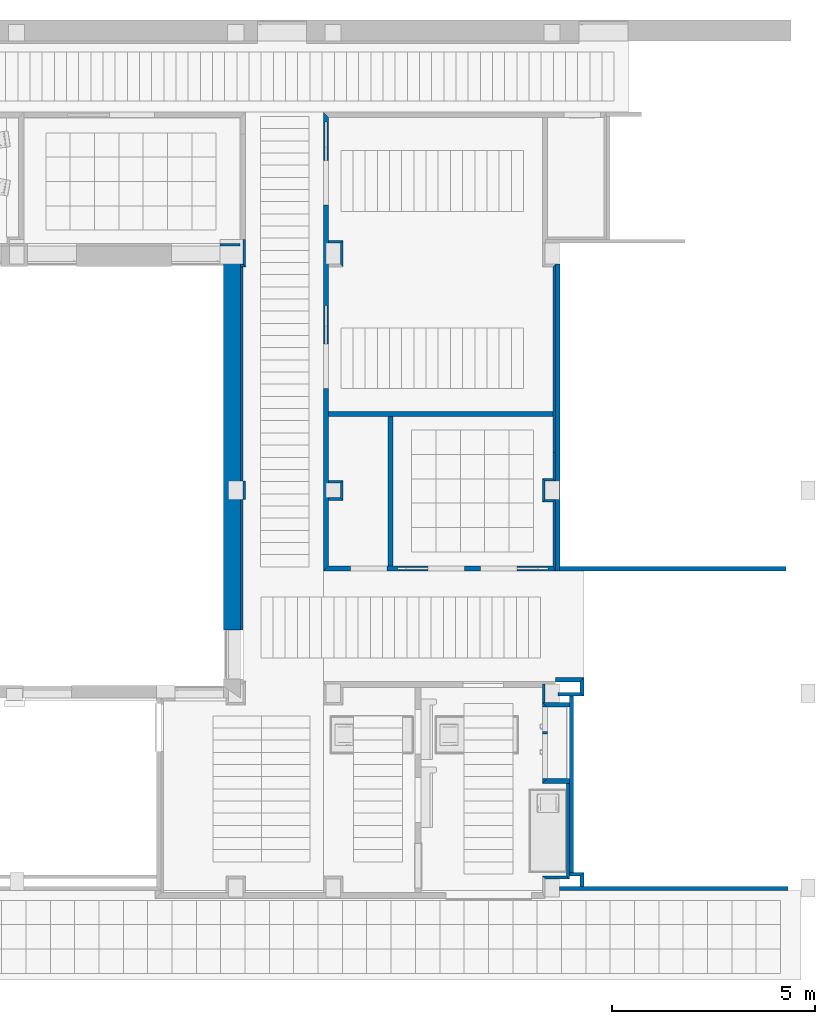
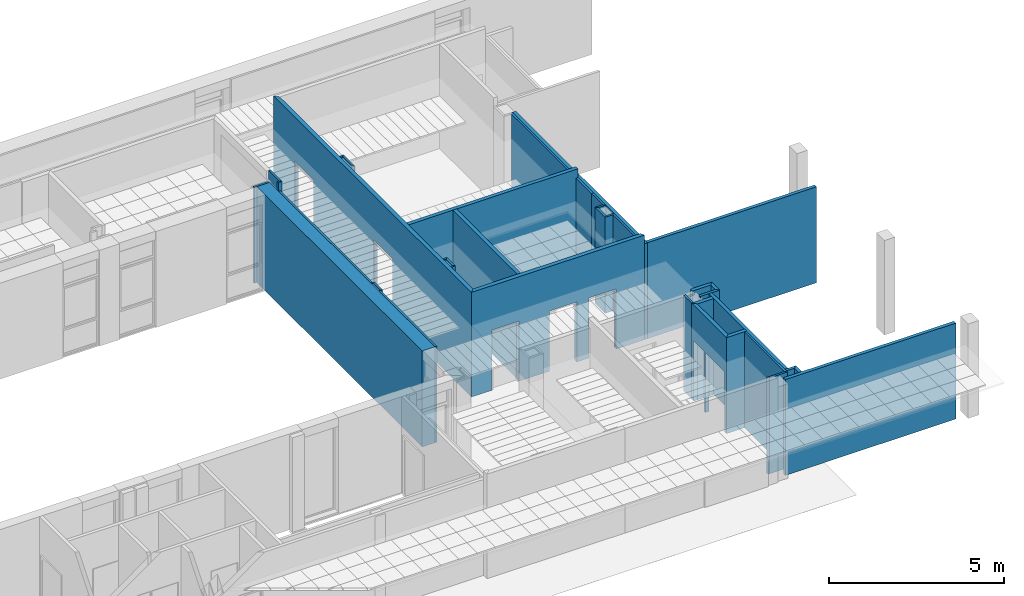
# One storey, part 42 of 60: 37 walls, 7 openings.
"""IFC2X3 building model written with IfcOpenShell, lengths in millimetres."""

from ifc_helpers import new_model, entity, si_unit, converted_unit, derived_unit, money_unit, direction, frame, origin_with_axes, origin_2d_with_axis, place, context, subcontext, project, spatial, polyline, rectangle, outline, extrude, material, layer, layer_set, layer_usage, type_object, element, save


model = new_model("IFC2X3")

# Units and contexts
model_context = context("Model", 3, precision=0.01, world=origin_with_axes(), true_north=direction((0.0, 1.0)))
body_context = subcontext(model_context, "Body", "Model", "MODEL_VIEW")
ifc_project = project(units=[si_unit("LENGTHUNIT", "METRE", prefix="MILLI"), si_unit("AREAUNIT", "SQUARE_METRE"), si_unit("VOLUMEUNIT", "CUBIC_METRE"), converted_unit("PLANEANGLEUNIT", "DEGREE", entity("IfcPlaneAngleMeasure", 0.0174532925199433), si_unit("PLANEANGLEUNIT", "RADIAN"), dimensions=[0, 0, 0, 0, 0, 0, 0]), money_unit("USD"), converted_unit("TIMEUNIT", "Year", entity("IfcTimeMeasure", 31557600.0), si_unit("TIMEUNIT", "SECOND"), dimensions=[0, 0, 1, 0, 0, 0, 0]), si_unit("MASSUNIT", "GRAM", prefix="KILO"), si_unit("THERMODYNAMICTEMPERATUREUNIT", "DEGREE_CELSIUS"), si_unit("LUMINOUSINTENSITYUNIT", "LUMEN"), si_unit("ENERGYUNIT", "JOULE", prefix="MEGA"), derived_unit("THERMALCONDUCTANCEUNIT", [(si_unit("POWERUNIT", "WATT"), 1), (si_unit("LENGTHUNIT", "METRE"), -1), (si_unit("THERMODYNAMICTEMPERATUREUNIT", "KELVIN"), -1)]), derived_unit("SPECIFICHEATCAPACITYUNIT", [(si_unit("ENERGYUNIT", "JOULE"), 1), (si_unit("MASSUNIT", "GRAM", prefix="KILO"), -1), (si_unit("THERMODYNAMICTEMPERATUREUNIT", "KELVIN"), -1)]), derived_unit("MASSDENSITYUNIT", [(si_unit("MASSUNIT", "GRAM", prefix="KILO"), 1), (si_unit("VOLUMEUNIT", "CUBIC_METRE"), -1)])], contexts=[model_context])

# Site, building, storey
site_placement = place(None, origin_with_axes())
site = spatial("IfcSite", under=ifc_project, at=site_placement, Name="Sitio", CompositionType="ELEMENT")
building_placement = place(site_placement, origin_with_axes())
building = spatial("IfcBuilding", under=site, at=building_placement, Name="Construcción", CompositionType="ELEMENT")
storey_placement = place(building_placement, frame((0.0, 0.0, 3650.0), z_axis=(0.0, 0.0, 1.0), x_axis=(1.0, 0.0, 0.0)))
storey = spatial("IfcBuildingStorey", under=building, at=storey_placement, Name="PLANTA 2ª", CompositionType="ELEMENT", Elevation=3650.0)

# Wall
ifc_material_1 = material(Name="ARQ_CE217_Gero")
ifc_layer_1 = layer(ifc_material_1, 150.0, ventilated="UNKNOWN")
ifc_material_2 = material(Name="ARQ_AI031_Aillament_Poliestireno expandido EPS")
ifc_layer_2 = layer(ifc_material_2, 180.0, ventilated="UNKNOWN")
ifc_material_3 = material(Name="ARQ_CE218_Ceramic")
ifc_layer_3 = layer(ifc_material_3, 80.0, ventilated="UNKNOWN")
ifc_material_4 = material(Name="ARQ_AM246_Arrebossat_De_Guix")
ifc_layer_4 = layer(ifc_material_4, 10.0, ventilated="UNKNOWN")
ifc_layer_set_1 = layer_set([ifc_layer_1, ifc_layer_2, ifc_layer_3, ifc_layer_4], Name="façana pati CR1")
ifc_layer_usage_1 = layer_usage(ifc_layer_set_1, "AXIS2", "POSITIVE", -420.0)
wall_type_1 = type_object("IfcWallType", Name="façana pati CR1 420", PredefinedType="NOTDEFINED")
wall_1_placement = place(storey_placement, frame((-1681.10900487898, -1193.975823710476, 0.0), z_axis=(0.0, 0.0, 1.0), x_axis=(0.0, -1.0, 0.0)))
element("IfcWallStandardCase", 1, at=wall_1_placement, inside=storey, type_object=wall_type_1, material=ifc_layer_usage_1, Name="MS-200", context=body_context, shape_type="SweptSolid", body=[
    extrude(outline(polyline([(0.0, -419.9999999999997), (9465.00000000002, -419.9999999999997), (9465.00000000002, 0.0), (0.0, 0.0), (0.0, -419.9999999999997)])), origin_with_axes(), (0.0, 0.0, 1.0), 3350.0),
])

# Wall, openings
ifc_material_5 = material(Name="Panel de Yeso Laminado")
ifc_layer_5 = layer(ifc_material_5, 13.0, ventilated="UNKNOWN")
ifc_layer_6 = layer(ifc_material_5, 13.0, ventilated="UNKNOWN")
ifc_material_6 = material(Name="ARQ_AI033_Aillament_Llana_De_Roca")
ifc_layer_7 = layer(ifc_material_6, 70.0, ventilated="UNKNOWN")
ifc_layer_8 = layer(ifc_material_5, 13.0, ventilated="UNKNOWN")
ifc_layer_9 = layer(ifc_material_5, 13.0, ventilated="UNKNOWN")
ifc_material_7 = material(Name="ARQ_EN271_Camara_Aire")
ifc_layer_10 = layer(ifc_material_7, 6.0, ventilated="UNKNOWN")
ifc_material_8 = material(Name="ARQ_FU093_Panellat_HPL")
ifc_layer_11 = layer(ifc_material_8, 6.0, ventilated="UNKNOWN")
ifc_layer_set_2 = layer_set([ifc_layer_5, ifc_layer_6, ifc_layer_7, ifc_layer_8, ifc_layer_9, ifc_layer_10, ifc_layer_11], Name="CR Pladur 70 HPL 1 cara")
ifc_layer_usage_2 = layer_usage(ifc_layer_set_2, "AXIS2", "POSITIVE", -134.0)
wall_type_2 = type_object("IfcWallType", Name="CR Pladur 70 HPL 1 cara 134", PredefinedType="NOTDEFINED")
wall_2_placement = place(storey_placement, frame((358.8909950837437, -9207.420994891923, 0.0), z_axis=(0.0, 0.0, 1.0), x_axis=(0.0, 1.0, 0.0)))
wall_2 = element("IfcWallStandardCase", 2, at=wall_2_placement, inside=storey, type_object=wall_type_2, material=ifc_layer_usage_2, Name="MS-212", context=body_context, shape_type="SweptSolid", body=[
    extrude(outline(polyline([(134.0000000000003, -134.0), (11182.975865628, -133.9999999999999), (11316.975865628, 0.0), (0.0, 0.0), (134.0000000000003, -134.0)])), origin_with_axes(), (0.0, 0.0, 1.0), 3650.0),
])
opening_1_placement = place(wall_2_placement, frame((5048.826387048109, 0.0, 0.0), z_axis=(0.0, 0.0, 1.0), x_axis=(1.0, 0.0, 0.0)))
element("IfcOpeningElement", 3, at=opening_1_placement, cuts=wall_2, Name="P-04", context=body_context, shape_type="SweptSolid", body=[
    extrude(rectangle(XDim=1100.0, YDim=2100.0, at=origin_2d_with_axis()), frame((0.0, -133.9999999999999, 1050.0), z_axis=(0.0, 1.0, 0.0), x_axis=(1.0, 0.0, 0.0)), (0.0, 0.0, 1.0), 402.0),
    extrude(rectangle(XDim=955.0000000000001, YDim=2050.0, at=origin_2d_with_axis()), frame((1027.5, -41.99999999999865, 1025.0), z_axis=(0.0, -1.0, 0.0), x_axis=(1.0, 0.0, 0.0)), (0.0, 0.0, 1.0), 50.0),
])
opening_2_placement = place(wall_2_placement, frame((9570.712542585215, 0.0, 0.0), z_axis=(0.0, 0.0, 1.0), x_axis=(1.0, 0.0, 0.0)))
element("IfcOpeningElement", 4, at=opening_2_placement, cuts=wall_2, Name="P-04", context=body_context, shape_type="SweptSolid", body=[
    extrude(rectangle(XDim=1100.0, YDim=2100.0, at=origin_2d_with_axis()), frame((0.0, -133.9999999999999, 1050.0), z_axis=(0.0, 1.0, 0.0), x_axis=(1.0, 0.0, 0.0)), (0.0, 0.0, 1.0), 402.0),
    extrude(rectangle(XDim=955.0000000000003, YDim=2050.0, at=origin_2d_with_axis()), frame((1027.5, -41.9999999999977, 1025.0), z_axis=(0.0, -1.0, 0.0), x_axis=(1.0, 0.0, 0.0)), (0.0, 0.0, 1.0), 50.0),
])

ifc_layer_usage_3 = layer_usage(ifc_layer_set_2, "AXIS2", "NEGATIVE", 134.0)
wall_3_placement = place(storey_placement, frame((358.8909950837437, -9207.420994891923, 0.0), z_axis=(0.0, 0.0, 1.0), x_axis=(1.0, 0.0, 0.0)))
wall_3 = element("IfcWallStandardCase", 5, at=wall_3_placement, inside=storey, type_object=wall_type_2, material=ifc_layer_usage_3, Name="MS-212", context=body_context, shape_type="SweptSolid", body=[
    extrude(outline(polyline([(0.0, 0.0), (5723.214859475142, 0.0), (5657.214859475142, 134.0000000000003), (133.9999999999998, 134.0000000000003), (0.0, 0.0)])), origin_with_axes(), (0.0, 0.0, 1.0), 3650.0),
])
opening_3_placement = place(wall_3_placement, frame((1124.076086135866, 0.0, 0.0), z_axis=(0.0, 0.0, 1.0), x_axis=(1.0, 0.0, 0.0)))
element("IfcOpeningElement", 6, at=opening_3_placement, cuts=wall_3, Name="P-02", context=body_context, shape_type="SweptSolid", body=[
    extrude(rectangle(XDim=899.9999999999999, YDim=2100.0, at=origin_2d_with_axis()), frame((0.0, -134.0000000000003, 1049.999999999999), z_axis=(0.0, 1.0, 0.0), x_axis=(1.0, 0.0, 0.0)), (0.0, 0.0, 1.0), 402.0),
])
opening_4_placement = place(wall_3_placement, frame((4330.604929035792, 0.0, 0.0), z_axis=(0.0, 0.0, 1.0), x_axis=(1.0, 0.0, 0.0)))
element("IfcOpeningElement", 7, at=opening_4_placement, cuts=wall_3, Name="P-01", context=body_context, shape_type="SweptSolid", body=[
    extrude(rectangle(XDim=900.0000000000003, YDim=2100.0, at=origin_2d_with_axis()), frame((0.0, 134.0000000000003, 1049.999999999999), z_axis=(0.0, 1.0, 0.0), x_axis=(1.0, 0.0, 0.0)), (0.0, 0.0, -1.0), 402.0),
    extrude(rectangle(XDim=754.9999999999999, YDim=2050.0, at=origin_2d_with_axis()), frame((827.4999999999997, 41.99999999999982, 1025.0), z_axis=(0.0, -1.0, 0.0), x_axis=(1.0, 0.0, 0.0)), (0.0, 0.0, -1.0), 50.0),
])
opening_5_placement = place(wall_3_placement, frame((3030.604929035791, 0.0, 0.0), z_axis=(0.0, 0.0, 1.0), x_axis=(1.0, 0.0, 0.0)))
element("IfcOpeningElement", 8, at=opening_5_placement, cuts=wall_3, Name="P-01", context=body_context, shape_type="SweptSolid", body=[
    extrude(rectangle(XDim=900.0000000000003, YDim=2100.0, at=origin_2d_with_axis()), frame((0.0, 134.0000000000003, 1049.999999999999), z_axis=(0.0, -1.0, 0.0), x_axis=(-1.0, 0.0, 0.0)), (0.0, 0.0, 1.0), 402.0),
    extrude(rectangle(XDim=754.9999999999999, YDim=2050.0, at=origin_2d_with_axis()), frame((-827.5000000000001, 41.99999999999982, 1025.0), z_axis=(0.0, 1.0, 0.0), x_axis=(-1.0, 0.0, 0.0)), (0.0, 0.0, 1.0), 50.0),
])

# Walls
ifc_layer_12 = layer(ifc_material_5, 13.0, ventilated="UNKNOWN")
ifc_layer_13 = layer(ifc_material_5, 13.0, ventilated="UNKNOWN")
ifc_layer_14 = layer(ifc_material_6, 70.0, ventilated="UNKNOWN")
ifc_layer_15 = layer(ifc_material_5, 13.0, ventilated="UNKNOWN")
ifc_layer_16 = layer(ifc_material_5, 13.0, ventilated="UNKNOWN")
ifc_layer_set_3 = layer_set([ifc_layer_12, ifc_layer_13, ifc_layer_14, ifc_layer_15, ifc_layer_16], Name="Pladur 70 / 2N+2N")
ifc_layer_usage_4 = layer_usage(ifc_layer_set_3, "AXIS2", "POSITIVE", -122.0)
wall_type_3 = type_object("IfcWallType", Name="Pladur 70 / 2N+2N 122", PredefinedType="NOTDEFINED")
wall_4_placement = place(storey_placement, frame((2073.419695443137, -5389.324539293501, 0.0), z_axis=(0.0, 0.0, 1.0), x_axis=(0.0, -1.0, 0.0)))
element("IfcWallStandardCase", 9, at=wall_4_placement, inside=storey, type_object=wall_type_3, material=ifc_layer_usage_4, Name="MS-225", context=body_context, shape_type="SweptSolid", body=[
    extrude(outline(polyline([(0.0, -121.9999999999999), (3684.096455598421, -121.9999999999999), (3684.096455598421, 0.0), (0.0, 0.0), (0.0, -121.9999999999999)])), origin_with_axes(), (0.0, 0.0, 1.0), 3650.0),
])
ifc_layer_usage_5 = layer_usage(ifc_layer_set_3, "AXIS2", "POSITIVE", -122.0)
wall_5_placement = place(storey_placement, frame((6082.105854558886, -5389.324539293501, 0.0), z_axis=(0.0, 0.0, 1.0), x_axis=(-1.0, 0.0, 0.0)))
element("IfcWallStandardCase", 10, at=wall_5_placement, inside=storey, type_object=wall_type_3, material=ifc_layer_usage_5, Name="MS-225", context=body_context, shape_type="SweptSolid", body=[
    extrude(outline(polyline([(0.0, -121.9999999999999), (5589.214859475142, -121.9999999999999), (5589.214859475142, 0.0), (0.0, 0.0), (0.0, -121.9999999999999)])), origin_with_axes(), (0.0, 0.0, 1.0), 3650.0),
])
ifc_layer_17 = layer(ifc_material_8, 6.0, ventilated="UNKNOWN")
ifc_layer_18 = layer(ifc_material_7, 6.0, ventilated="UNKNOWN")
ifc_layer_19 = layer(ifc_material_5, 13.0, ventilated="UNKNOWN")
ifc_layer_20 = layer(ifc_material_6, 40.0, ventilated="UNKNOWN")
ifc_layer_set_4 = layer_set([ifc_layer_17, ifc_layer_18, ifc_layer_19, ifc_layer_20], Name="Pladur Tras 40 / 1N +HPL")
ifc_layer_usage_6 = layer_usage(ifc_layer_set_4, "AXIS2", "POSITIVE", 0.0)
wall_type_4 = type_object("IfcWallType", Name="Pladur Tras 40 / 1N +HPL 65", PredefinedType="NOTDEFINED")
wall_6_placement = place(storey_placement, frame((-1681.10900487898, -1703.975823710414, 0.0), z_axis=(0.0, 0.0, 1.0), x_axis=(1.0, 0.0, 0.0)))
element("IfcWallStandardCase", 11, at=wall_6_placement, inside=storey, type_object=wall_type_4, material=ifc_layer_usage_6, Name="MS-243", context=body_context, shape_type="SweptSolid", body=[
    extrude(outline(polyline([(0.0, 0.0), (125.0000000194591, 0.0), (60.00000001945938, 64.99999999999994), (0.0, 64.99999999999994), (0.0, 0.0)])), origin_with_axes(), (0.0, 0.0, 1.0), 3650.0),
])
ifc_layer_usage_7 = layer_usage(ifc_layer_set_4, "AXIS2", "POSITIVE", 0.0)
wall_7_placement = place(storey_placement, frame((6357.105854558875, -14316.97582370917, 0.0), z_axis=(0.0, 0.0, 1.0), x_axis=(0.0, -1.0, 0.0)))
element("IfcWallStandardCase", 12, at=wall_7_placement, inside=storey, type_object=wall_type_4, material=ifc_layer_usage_7, Name="MS-233", context=body_context, shape_type="SweptSolid", body=[
    extrude(outline(polyline([(121.9999999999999, 0.0), (2406.999834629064, 0.0), (2471.999834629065, 65.0000000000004), (122.0000000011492, 65.0000000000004), (121.9999999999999, 0.0)])), origin_with_axes(), (0.0, 0.0, 1.0), 3350.0),
])
ifc_layer_usage_8 = layer_usage(ifc_layer_set_4, "AXIS2", "POSITIVE", -65.0)
wall_8_placement = place(storey_placement, frame((5828.890995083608, -11988.97565901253, 0.0), z_axis=(0.0, 0.0, 1.0), x_axis=(0.0, -1.0, 0.0)))
element("IfcWallStandardCase", 13, at=wall_8_placement, inside=storey, type_object=wall_type_4, material=ifc_layer_usage_8, Name="MS-231", context=body_context, shape_type="SweptSolid", body=[
    extrude(outline(polyline([(0.0, -65.0000000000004), (450.0001646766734, -65.0000000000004), (450.0001646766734, 0.0), (0.0, 0.0), (0.0, -65.0000000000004)])), origin_with_axes(), (0.0, 0.0, 1.0), 3350.0),
])
ifc_layer_usage_9 = layer_usage(ifc_layer_set_4, "AXIS2", "POSITIVE", -65.0)
wall_9_placement = place(storey_placement, frame((-1621.109004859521, -1703.975823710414, 0.0), z_axis=(0.0, 0.0, 1.0), x_axis=(0.0, 1.0, 0.0)))
element("IfcWallStandardCase", 14, at=wall_9_placement, inside=storey, type_object=wall_type_4, material=ifc_layer_usage_9, Name="MS-243", context=body_context, shape_type="SweptSolid", body=[
    extrude(outline(polyline([(0.0, -64.99999999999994), (669.9998381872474, -64.99999999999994), (669.9998381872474, 0.0), (64.99999999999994, 0.0), (0.0, -64.99999999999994)])), origin_with_axes(), (0.0, 0.0, 1.0), 3650.0),
])
ifc_layer_usage_10 = layer_usage(ifc_layer_set_4, "AXIS2", "POSITIVE", 0.0)
wall_10_placement = place(storey_placement, frame((-1616.109004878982, -10658.9758237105, 0.0), z_axis=(0.0, 0.0, 1.0), x_axis=(0.0, 1.0, 0.0)))
element("IfcWallStandardCase", 15, at=wall_10_placement, inside=storey, type_object=wall_type_4, material=ifc_layer_usage_10, Name="MS-212", context=body_context, shape_type="SweptSolid", body=[
    extrude(outline(polyline([(0.0, 0.0), (3219.999134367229, 0.0), (3219.999134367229, 64.99999999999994), (0.0, 64.99999999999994), (0.0, 0.0)])), origin_with_axes(), (0.0, 0.0, 1.0), 3350.0),
])
ifc_layer_usage_11 = layer_usage(ifc_layer_set_4, "AXIS2", "POSITIVE", 0.0)
wall_11_placement = place(storey_placement, frame((-1556.108952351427, -7438.976689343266, 0.0), z_axis=(0.0, 0.0, 1.0), x_axis=(0.0, 1.0, 0.0)))
element("IfcWallStandardCase", 16, at=wall_11_placement, inside=storey, type_object=wall_type_4, material=ifc_layer_usage_11, Name="MS-212", context=body_context, shape_type="SweptSolid", body=[
    extrude(outline(polyline([(0.0, 0.0), (450.0020821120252, 0.0), (450.0020821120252, 64.99999999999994), (0.0, 64.99999999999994), (0.0, 0.0)])), origin_with_axes(), (0.0, 0.0, 1.0), 3350.0),
])
ifc_layer_usage_12 = layer_usage(ifc_layer_set_4, "AXIS2", "POSITIVE", 0.0)
wall_12_placement = place(storey_placement, frame((-1616.109004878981, -6988.974607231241, 0.0), z_axis=(0.0, 0.0, 1.0), x_axis=(0.0, 1.0, 0.0)))
element("IfcWallStandardCase", 17, at=wall_12_placement, inside=storey, type_object=wall_type_4, material=ifc_layer_usage_12, Name="MS-212", context=body_context, shape_type="SweptSolid", body=[
    extrude(outline(polyline([(0.0, 0.0), (5284.998783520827, 0.0), (5284.998783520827, 64.99999999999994), (0.0, 64.99999999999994), (0.0, 0.0)])), origin_with_axes(), (0.0, 0.0, 1.0), 3350.0),
])
ifc_layer_usage_13 = layer_usage(ifc_layer_set_4, "AXIS2", "POSITIVE", -65.0)
wall_13_placement = place(storey_placement, frame((6357.105854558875, -16788.97565833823, 0.0), z_axis=(0.0, 0.0, 1.0), x_axis=(-1.0, 0.0, 0.0)))
element("IfcWallStandardCase", 18, at=wall_13_placement, inside=storey, type_object=wall_type_4, material=ifc_layer_usage_13, Name="MS-227", context=body_context, shape_type="SweptSolid", body=[
    extrude(outline(polyline([(0.0, -65.00000000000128), (593.2148069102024, -65.00000000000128), (528.2148069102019, 0.0), (-65.0000000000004, 0.0), (0.0, -65.00000000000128)])), origin_with_axes(), (0.0, 0.0, 1.0), 3350.0),
])
ifc_layer_21 = layer(ifc_material_4, 10.0, ventilated="UNKNOWN")
ifc_layer_22 = layer(ifc_material_1, 90.0, ventilated="UNKNOWN")
ifc_layer_23 = layer(ifc_material_4, 10.0, ventilated="UNKNOWN")
ifc_layer_set_5 = layer_set([ifc_layer_21, ifc_layer_22, ifc_layer_23], Name="CR Enva Totxana")
ifc_layer_usage_14 = layer_usage(ifc_layer_set_5, "AXIS2", "POSITIVE", -110.0)
wall_type_5 = type_object("IfcWallType", Name="CR Enva Totxana 110", PredefinedType="NOTDEFINED")
wall_14_placement = place(storey_placement, frame((6422.105854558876, -16633.97598839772, 0.0), z_axis=(0.0, 0.0, 1.0), x_axis=(0.0, 1.0, 0.0)))
element("IfcWallStandardCase", 19, at=wall_14_placement, inside=storey, type_object=wall_type_5, material=ifc_layer_usage_14, Name="MS-201", context=body_context, shape_type="SweptSolid", body=[
    extrude(outline(polyline([(0.0, -110.0000000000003), (4350.00016468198, -110.0000000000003), (4350.00016468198, 0.0), (0.0, 0.0), (0.0, -110.0000000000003)])), origin_with_axes(), (0.0, 0.0, 1.0), 3350.0),
])
ifc_layer_usage_15 = layer_usage(ifc_layer_set_5, "AXIS2", "POSITIVE", -110.0)
wall_15_placement = place(storey_placement, frame((6782.105854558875, -11933.97598840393, 0.0), z_axis=(0.0, 0.0, 1.0), x_axis=(-1.0, 0.0, 0.0)))
element("IfcWallStandardCase", 20, at=wall_15_placement, inside=storey, type_object=wall_type_5, material=ifc_layer_usage_15, Name="MS-201", context=body_context, shape_type="SweptSolid", body=[
    extrude(outline(polyline([(0.0, -109.9999999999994), (699.9999999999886, -109.9999999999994), (699.9999999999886, 0.0), (89.99999999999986, 0.0), (0.0, -109.9999999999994)])), origin_with_axes(), (0.0, 0.0, 1.0), 3350.0),
])
ifc_layer_usage_16 = layer_usage(ifc_layer_set_5, "AXIS2", "POSITIVE", 0.0)
wall_16_placement = place(storey_placement, frame((6178.891051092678, -17083.97582371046, 0.0), z_axis=(0.0, 0.0, 1.0), x_axis=(1.0, 0.0, 0.0)))
element("IfcWallStandardCase", 21, at=wall_16_placement, inside=storey, type_object=wall_type_5, material=ifc_layer_usage_16, Name="MS-201", context=body_context, shape_type="SweptSolid", body=[
    extrude(outline(polyline([(0.0, 0.0), (5634.090876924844, 0.0), (5634.090876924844, 109.9999999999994), (0.0, 109.9999999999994), (0.0, 0.0)])), origin_with_axes(), (0.0, 0.0, 1.0), 3350.0),
])
ifc_layer_usage_17 = layer_usage(ifc_layer_set_5, "AXIS2", "POSITIVE", 0.0)
wall_17_placement = place(storey_placement, frame((6178.89099508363, -9207.420994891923, 0.0), z_axis=(0.0, 0.0, 1.0), x_axis=(1.0, 0.0, 0.0)))
element("IfcWallStandardCase", 22, at=wall_17_placement, inside=storey, type_object=wall_type_5, material=ifc_layer_usage_17, Name="MS-206", context=body_context, shape_type="SweptSolid", body=[
    extrude(outline(polyline([(0.0, 0.0), (5580.000000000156, 0.0), (5580.000000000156, 109.9999999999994), (0.0, 109.9999999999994), (0.0, 0.0)])), origin_with_axes(), (0.0, 0.0, 1.0), 3350.0),
])
ifc_layer_usage_18 = layer_usage(ifc_layer_set_5, "AXIS2", "POSITIVE", -110.0)
wall_18_placement = place(storey_placement, frame((6082.105854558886, -9207.420994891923, 0.0), z_axis=(0.0, 0.0, 1.0), x_axis=(0.0, 1.0, 0.0)))
element("IfcWallStandardCase", 23, at=wall_18_placement, inside=storey, type_object=wall_type_5, material=ifc_layer_usage_18, Name="MS-201", context=body_context, shape_type="SweptSolid", body=[
    extrude(outline(polyline([(0.0, -110.0000000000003), (7568.445171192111, -110.0000000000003), (7568.445171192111, 0.0), (0.0, 0.0), (0.0, -110.0000000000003)])), origin_with_axes(), (0.0, 0.0, 1.0), 3350.0),
])
ifc_layer_24 = layer(ifc_material_4, 10.0, ventilated="UNKNOWN")
ifc_layer_25 = layer(ifc_material_1, 70.0, ventilated="UNKNOWN")
ifc_layer_26 = layer(ifc_material_4, 10.0, ventilated="UNKNOWN")
ifc_layer_set_6 = layer_set([ifc_layer_24, ifc_layer_25, ifc_layer_26], Name="CR Enva Totxaneta")
ifc_layer_usage_19 = layer_usage(ifc_layer_set_6, "AXIS2", "POSITIVE", 0.0)
wall_type_6 = type_object("IfcWallType", Name="CR Enva Totxaneta 90", PredefinedType="NOTDEFINED")
wall_19_placement = place(storey_placement, frame((6782.105854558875, -17083.97582371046, 0.0), z_axis=(0.0, 0.0, 1.0), x_axis=(0.0, 1.0, 0.0)))
element("IfcWallStandardCase", 24, at=wall_19_placement, inside=storey, type_object=wall_type_6, material=ifc_layer_usage_19, Name="MS-201", context=body_context, shape_type="SweptSolid", body=[
    extrude(outline(polyline([(109.9999999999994, 0.0), (449.9998353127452, 0.0), (359.9998353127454, 89.99999999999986), (109.9999999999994, 89.99999999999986), (109.9999999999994, 0.0)])), origin_with_axes(), (0.0, 0.0, 1.0), 3350.0),
])
ifc_layer_usage_20 = layer_usage(ifc_layer_set_6, "AXIS2", "POSITIVE", 0.0)
wall_20_placement = place(storey_placement, frame((6782.105854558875, -16633.97598839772, 0.0), z_axis=(0.0, 0.0, 1.0), x_axis=(-1.0, 0.0, 0.0)))
element("IfcWallStandardCase", 25, at=wall_20_placement, inside=storey, type_object=wall_type_6, material=ifc_layer_usage_20, Name="MS-201", context=body_context, shape_type="SweptSolid", body=[
    extrude(outline(polyline([(0.0, 0.0), (359.9999999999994, 0.0), (359.9999999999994, 89.99999999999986), (89.99999999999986, 89.99999999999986), (0.0, 0.0)])), origin_with_axes(), (0.0, 0.0, 1.0), 3350.0),
])
ifc_layer_usage_21 = layer_usage(ifc_layer_set_6, "AXIS2", "POSITIVE", 0.0)
wall_21_placement = place(storey_placement, frame((6782.105854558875, -12193.97582371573, 0.0), z_axis=(0.0, 0.0, 1.0), x_axis=(-1.0, 0.0, 0.0)))
element("IfcWallStandardCase", 26, at=wall_21_placement, inside=storey, type_object=wall_type_6, material=ifc_layer_usage_21, Name="MS-201", context=body_context, shape_type="SweptSolid", body=[
    extrude(outline(polyline([(89.99999999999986, 0.0), (637.1158580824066, 0.0), (637.1158580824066, 89.99999999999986), (0.0, 89.99999999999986), (89.99999999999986, 0.0)])), origin_with_axes(), (0.0, 0.0, 1.0), 3350.0),
])
ifc_layer_usage_22 = layer_usage(ifc_layer_set_6, "AXIS2", "POSITIVE", 0.0)
wall_22_placement = place(storey_placement, frame((6782.105854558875, -12193.97582371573, 0.0), z_axis=(0.0, 0.0, 1.0), x_axis=(0.0, 1.0, 0.0)))
element("IfcWallStandardCase", 27, at=wall_22_placement, inside=storey, type_object=wall_type_6, material=ifc_layer_usage_22, Name="MS-201", context=body_context, shape_type="SweptSolid", body=[
    extrude(outline(polyline([(-89.99999999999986, 0.0), (369.999835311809, 0.0), (259.9998353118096, 89.99999999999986), (0.0, 89.99999999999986), (-89.99999999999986, 0.0)])), origin_with_axes(), (0.0, 0.0, 1.0), 3350.0),
])
ifc_layer_27 = layer(ifc_material_5, 13.0, ventilated="UNKNOWN")
ifc_layer_28 = layer(ifc_material_5, 13.0, ventilated="UNKNOWN")
ifc_layer_29 = layer(ifc_material_6, 40.0, ventilated="UNKNOWN")
ifc_layer_set_7 = layer_set([ifc_layer_27, ifc_layer_28, ifc_layer_29], Name="Pladur Tras 40 / 2N")
ifc_layer_usage_23 = layer_usage(ifc_layer_set_7, "AXIS2", "POSITIVE", 0.0)
wall_type_7 = type_object("IfcWallType", Name="Pladur Tras 40 / 2N 66", PredefinedType="NOTDEFINED")
wall_23_placement = place(storey_placement, frame((844.8910476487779, -1057.975988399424, 0.0), z_axis=(0.0, 0.0, 1.0), x_axis=(-1.0, 0.0, 0.0)))
element("IfcWallStandardCase", 28, at=wall_23_placement, inside=storey, type_object=wall_type_7, material=ifc_layer_usage_23, Name="MS-212", context=body_context, shape_type="SweptSolid", body=[
    extrude(outline(polyline([(0.0, 0.0), (352.000052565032, 0.0), (352.000052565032, 66.00000000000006), (66.00000000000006, 66.00000000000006), (0.0, 0.0)])), origin_with_axes(), (0.0, 0.0, 1.0), 3350.0),
])
ifc_layer_usage_24 = layer_usage(ifc_layer_set_7, "AXIS2", "POSITIVE", 0.0)
wall_24_placement = place(storey_placement, frame((6016.105854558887, -7504.975823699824, 0.0), z_axis=(0.0, 0.0, 1.0), x_axis=(0.0, -1.0, 0.0)))
element("IfcWallStandardCase", 29, at=wall_24_placement, inside=storey, type_object=wall_type_7, material=ifc_layer_usage_24, Name="MS-212", context=body_context, shape_type="SweptSolid", body=[
    extrude(outline(polyline([(0.0, 0.0), (1568.445171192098, 0.0), (1702.445171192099, 65.99999999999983), (-65.99999999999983, 65.99999999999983), (0.0, 0.0)])), origin_with_axes(), (0.0, 0.0, 1.0), 3350.0),
])
ifc_layer_usage_25 = layer_usage(ifc_layer_set_7, "AXIS2", "POSITIVE", 0.0)
wall_25_placement = place(storey_placement, frame((5762.890995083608, -6922.975659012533, 0.0), z_axis=(0.0, 0.0, 1.0), x_axis=(0.0, -1.0, 0.0)))
element("IfcWallStandardCase", 30, at=wall_25_placement, inside=storey, type_object=wall_type_7, material=ifc_layer_usage_25, Name="MS-212", context=body_context, shape_type="SweptSolid", body=[
    extrude(outline(polyline([(0.0, 0.0), (582.0001646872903, 0.0), (516.0001646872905, 65.99999999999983), (65.99999999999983, 65.99999999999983), (0.0, 0.0)])), origin_with_axes(), (0.0, 0.0, 1.0), 3350.0),
])
ifc_layer_usage_26 = layer_usage(ifc_layer_set_7, "AXIS2", "NEGATIVE", 0.0)
wall_26_placement = place(storey_placement, frame((6016.105854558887, -7504.975823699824, 0.0), z_axis=(0.0, 0.0, 1.0), x_axis=(-1.0, 0.0, 0.0)))
element("IfcWallStandardCase", 31, at=wall_26_placement, inside=storey, type_object=wall_type_7, material=ifc_layer_usage_26, Name="MS-212", context=body_context, shape_type="SweptSolid", body=[
    extrude(outline(polyline([(-65.99999999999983, -65.99999999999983), (187.2148594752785, -65.99999999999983), (253.2148594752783, 0.0), (0.0, 0.0), (-65.99999999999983, -65.99999999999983)])), origin_with_axes(), (0.0, 0.0, 1.0), 3350.0),
])
ifc_layer_usage_27 = layer_usage(ifc_layer_set_7, "AXIS2", "POSITIVE", 0.0)
wall_27_placement = place(storey_placement, frame((6016.105854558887, -1704.975823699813, 0.0), z_axis=(0.0, 0.0, 1.0), x_axis=(0.0, -1.0, 0.0)))
element("IfcWallStandardCase", 32, at=wall_27_placement, inside=storey, type_object=wall_type_7, material=ifc_layer_usage_27, Name="MS-212", context=body_context, shape_type="SweptSolid", body=[
    extrude(outline(polyline([(0.0, 0.0), (4577.579983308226, 0.0), (4577.579983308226, 65.99999999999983), (-66.00000000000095, 65.99999999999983), (0.0, 0.0)])), origin_with_axes(), (0.0, 0.0, 1.0), 3350.0),
])
ifc_layer_usage_28 = layer_usage(ifc_layer_set_7, "AXIS2", "NEGATIVE", 0.0)
wall_28_placement = place(storey_placement, frame((844.8910476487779, -7459.975823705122, 0.0), z_axis=(0.0, 0.0, 1.0), x_axis=(-1.0, 0.0, 0.0)))
element("IfcWallStandardCase", 33, at=wall_28_placement, inside=storey, type_object=wall_type_7, material=ifc_layer_usage_28, Name="MS-212", context=body_context, shape_type="SweptSolid", body=[
    extrude(outline(polyline([(66.00000000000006, -65.99999999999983), (352.0000525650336, -65.99999999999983), (352.0000525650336, 0.0), (0.0, 0.0), (66.00000000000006, -65.99999999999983)])), origin_with_axes(), (0.0, 0.0, 1.0), 3350.0),
])
ifc_layer_usage_29 = layer_usage(ifc_layer_set_7, "AXIS2", "POSITIVE", 0.0)
wall_29_placement = place(storey_placement, frame((844.8910476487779, -7459.975823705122, 0.0), z_axis=(0.0, 0.0, 1.0), x_axis=(0.0, 1.0, 0.0)))
element("IfcWallStandardCase", 34, at=wall_29_placement, inside=storey, type_object=wall_type_7, material=ifc_layer_usage_29, Name="MS-212", context=body_context, shape_type="SweptSolid", body=[
    extrude(outline(polyline([(0.0, 0.0), (492.0000001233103, 0.0), (426.0000001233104, 66.00000000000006), (65.99999999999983, 66.00000000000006), (0.0, 0.0)])), origin_with_axes(), (0.0, 0.0, 1.0), 3350.0),
])
ifc_layer_usage_30 = layer_usage(ifc_layer_set_7, "AXIS2", "POSITIVE", 0.0)
wall_30_placement = place(storey_placement, frame((844.8910476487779, -6967.975823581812, 0.0), z_axis=(0.0, 0.0, 1.0), x_axis=(-1.0, 0.0, 0.0)))
element("IfcWallStandardCase", 35, at=wall_30_placement, inside=storey, type_object=wall_type_7, material=ifc_layer_usage_30, Name="MS-212", context=body_context, shape_type="SweptSolid", body=[
    extrude(outline(polyline([(0.0, 0.0), (352.0000525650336, 0.0), (352.0000525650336, 65.99999999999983), (66.00000000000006, 65.99999999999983), (0.0, 0.0)])), origin_with_axes(), (0.0, 0.0, 1.0), 3350.0),
])
ifc_layer_usage_31 = layer_usage(ifc_layer_set_7, "AXIS2", "POSITIVE", 0.0)
wall_31_placement = place(storey_placement, frame((844.8910476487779, -1704.975823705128, 0.0), z_axis=(0.0, 0.0, 1.0), x_axis=(0.0, 1.0, 0.0)))
element("IfcWallStandardCase", 36, at=wall_31_placement, inside=storey, type_object=wall_type_7, material=ifc_layer_usage_31, Name="MS-212", context=body_context, shape_type="SweptSolid", body=[
    extrude(outline(polyline([(0.0, 0.0), (646.9998353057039, 0.0), (580.9998353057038, 66.00000000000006), (66.00000000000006, 66.00000000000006), (0.0, 0.0)])), origin_with_axes(), (0.0, 0.0, 1.0), 3350.0),
])
ifc_layer_usage_32 = layer_usage(ifc_layer_set_7, "AXIS2", "NEGATIVE", 0.0)
wall_32_placement = place(storey_placement, frame((5762.890995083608, -6922.975659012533, 0.0), z_axis=(0.0, 0.0, 1.0), x_axis=(1.0, 0.0, 0.0)))
element("IfcWallStandardCase", 37, at=wall_32_placement, inside=storey, type_object=wall_type_7, material=ifc_layer_usage_32, Name="MS-212", context=body_context, shape_type="SweptSolid", body=[
    extrude(outline(polyline([(65.99999999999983, -65.99999999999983), (319.2148594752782, -65.99999999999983), (253.2148594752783, 0.0), (0.0, 0.0), (65.99999999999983, -65.99999999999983)])), origin_with_axes(), (0.0, 0.0, 1.0), 3350.0),
])
ifc_layer_usage_33 = layer_usage(ifc_layer_set_7, "AXIS2", "POSITIVE", 0.0)
wall_33_placement = place(storey_placement, frame((6016.105854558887, -6282.555807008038, 0.0), z_axis=(0.0, 0.0, 1.0), x_axis=(0.0, -1.0, 0.0)))
element("IfcWallStandardCase", 38, at=wall_33_placement, inside=storey, type_object=wall_type_7, material=ifc_layer_usage_33, Name="MS-212", context=body_context, shape_type="SweptSolid", body=[
    extrude(outline(polyline([(0.0, 0.0), (640.419852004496, 0.0), (706.4198520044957, 65.99999999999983), (0.0, 65.99999999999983), (0.0, 0.0)])), origin_with_axes(), (0.0, 0.0, 1.0), 3350.0),
])
ifc_layer_usage_34 = layer_usage(ifc_layer_set_7, "AXIS2", "NEGATIVE", 0.0)
wall_34_placement = place(storey_placement, frame((-2183.431355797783, -1128.975823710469, 0.0), z_axis=(0.0, 0.0, 1.0), x_axis=(1.0, 0.0, 0.0)))
element("IfcWallStandardCase", 39, at=wall_34_placement, inside=storey, type_object=wall_type_7, material=ifc_layer_usage_34, Name="MS-241", context=body_context, shape_type="SweptSolid", body=[
    extrude(outline(polyline([(0.0, -66.00000000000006), (493.3223509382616, -66.00000000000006), (493.3223509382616, 0.0), (0.0, 0.0), (0.0, -66.00000000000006)])), origin_with_axes(), (0.0, 0.0, 1.0), 3350.0),
])
ifc_material_9 = material(Name="ARQ_CG062_Guix_Laminat_Foc")
ifc_layer_30 = layer(ifc_material_9, 13.0, ventilated="UNKNOWN")
ifc_layer_31 = layer(ifc_material_9, 13.0, ventilated="UNKNOWN")
ifc_layer_32 = layer(ifc_material_6, 70.0, ventilated="UNKNOWN")
ifc_layer_33 = layer(ifc_material_9, 13.0, ventilated="UNKNOWN")
ifc_layer_34 = layer(ifc_material_9, 13.0, ventilated="UNKNOWN")
ifc_layer_set_8 = layer_set([ifc_layer_30, ifc_layer_31, ifc_layer_32, ifc_layer_33, ifc_layer_34], Name="Pladur 70 Foc/ 2F+2F")
ifc_layer_usage_35 = layer_usage(ifc_layer_set_8, "AXIS2", "POSITIVE", 0.0)
wall_type_8 = type_object("IfcWallType", Name="Pladur 70 Foc/ 2F+2F 122", PredefinedType="NOTDEFINED")
wall_35_placement = place(storey_placement, frame((6428.890995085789, -14316.97582371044, 0.0), z_axis=(0.0, 0.0, 1.0), x_axis=(-1.0, 0.0, 0.0)))
element("IfcWallStandardCase", 40, at=wall_35_placement, inside=storey, type_object=wall_type_8, material=ifc_layer_usage_35, Name="MS-216", context=body_context, shape_type="SweptSolid", body=[
    extrude(outline(polyline([(0.0, 0.0), (543.0000000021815, 0.0), (665.0000000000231, 121.9999999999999), (0.0, 121.9999999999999), (0.0, 0.0)])), origin_with_axes(), (0.0, 0.0, 1.0), 3350.0),
])
ifc_layer_usage_36 = layer_usage(ifc_layer_set_8, "AXIS2", "POSITIVE", -122.0)
wall_36_placement = place(storey_placement, frame((6422.105854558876, -12560.97582368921, 0.0), z_axis=(0.0, 0.0, 1.0), x_axis=(-1.0, 0.0, 0.0)))
element("IfcWallStandardCase", 41, at=wall_36_placement, inside=storey, type_object=wall_type_8, material=ifc_layer_usage_36, Name="MS-216", context=body_context, shape_type="SweptSolid", body=[
    extrude(outline(polyline([(0.0, -121.9999999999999), (658.2148594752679, -121.9999999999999), (536.214859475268, 0.0), (0.0, 0.0), (0.0, -121.9999999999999)])), origin_with_axes(), (0.0, 0.0, 1.0), 3350.0),
])

# Wall, openings
ifc_layer_usage_37 = layer_usage(ifc_layer_set_8, "AXIS2", "POSITIVE", 0.0)
wall_37_placement = place(storey_placement, frame((5763.890995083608, -12560.97582368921, 0.0), z_axis=(0.0, 0.0, 1.0), x_axis=(0.0, -1.0, 0.0)))
wall_37 = element("IfcWallStandardCase", 42, at=wall_37_placement, inside=storey, type_object=wall_type_8, material=ifc_layer_usage_37, Name="MS-217", context=body_context, shape_type="SweptSolid", body=[
    extrude(outline(polyline([(-121.9999999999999, 0.0), (1878.000000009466, 0.0), (1756.000000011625, 121.9999999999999), (0.0, 121.9999999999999), (-121.9999999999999, 0.0)])), origin_with_axes(), (0.0, 0.0, 1.0), 3350.0),
])
opening_6_placement = place(wall_37_placement, frame((300.0000000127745, 0.0, 0.0), z_axis=(0.0, 0.0, 1.0), x_axis=(1.0, 0.0, 0.0)))
element("IfcOpeningElement", 43, at=opening_6_placement, cuts=wall_37, Name="PF-1", context=body_context, shape_type="SweptSolid", body=[
    extrude(rectangle(XDim=600.0000000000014, YDim=2100.0, at=origin_2d_with_axis()), frame((0.0, -121.9999999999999, 1049.999999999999), z_axis=(0.0, 1.0, 0.0), x_axis=(-1.0, 0.0, 0.0)), (0.0, 0.0, 1.0), 366.0),
])
opening_7_placement = place(wall_37_placement, frame((1210.501472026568, 0.0, 0.0), z_axis=(0.0, 0.0, 1.0), x_axis=(1.0, 0.0, 0.0)))
element("IfcOpeningElement", 44, at=opening_7_placement, cuts=wall_37, Name="PF-2", context=body_context, shape_type="SweptSolid", body=[
    extrude(rectangle(XDim=1090.997055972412, YDim=2100.0, at=origin_2d_with_axis()), frame((0.0, -121.9999999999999, 1049.999999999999), z_axis=(0.0, 1.0, 0.0), x_axis=(-1.0, 0.0, 0.0)), (0.0, 0.0, 1.0), 366.0),
])

save(model, "model.ifc")
